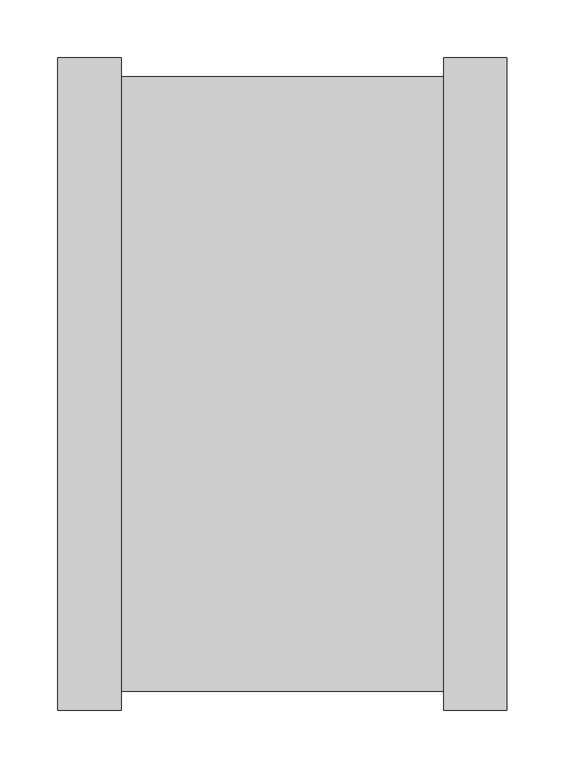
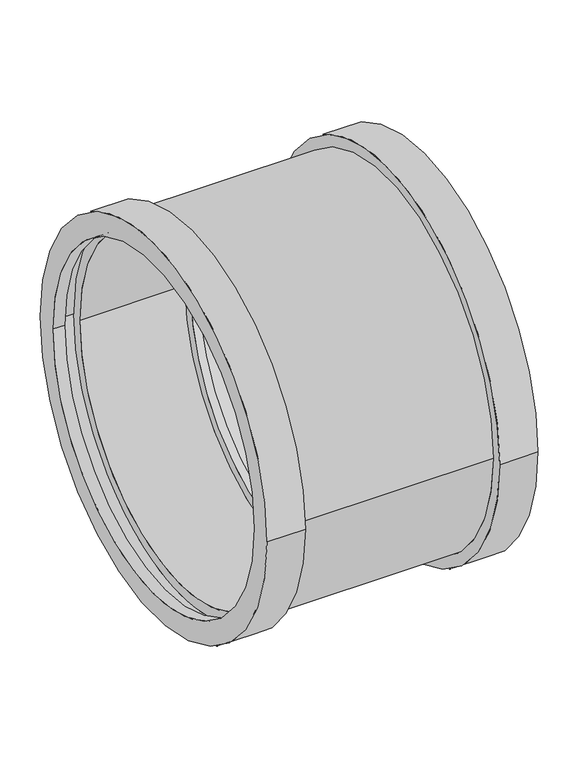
"""IFC4 building model written with IfcOpenShell, lengths in millimetres: pipe fitting geometry, AWADUKT PP Union DSM : Blue No PID."""

import ifcopenshell
import ifcopenshell.guid

model = None  # the IFC model being written
_history = None  # IfcOwnerHistory: only IFC2X3 demands one
_inside = {}  # id of a spatial element -> (the spatial element, [elements in it])
_under = {}  # id of a project, library or spatial element -> (it, [spatial elements below it])
_declared = {}  # id of a project -> (the project, [libraries it declares])
_typed = {}  # id of a type object -> (the type object, [elements of that type])
_made_of = {}  # id of a material, layer set ... -> (it, [elements and type objects made of it])


def new_model(schema):
    """Start an empty IFC model of exactly this schema.

    Asked for "IFC4X3", IfcOpenShell would pick the latest addendum, in which some entities
    have other attributes; the version numbers below select the first issue.
    IFC2X3 requires an IfcOwnerHistory on every rooted entity: one is made here for all.
    """
    global model, _history
    if schema == "IFC4X3":
        model = ifcopenshell.file(schema_version=(4, 3, 0, 0))
    else:
        model = ifcopenshell.file(schema=schema)
    _inside.clear()
    _under.clear()
    _declared.clear()
    _typed.clear()
    _made_of.clear()
    _history = None
    if model.schema == "IFC2X3":
        org = make("IfcOrganization", Name="unknown")
        user = make(
            "IfcPersonAndOrganization",
            ThePerson=make("IfcPerson", FamilyName="unknown"),
            TheOrganization=org,
        )
        app = make(
            "IfcApplication",
            ApplicationDeveloper=org,
            Version="unknown",
            ApplicationFullName="unknown",
            ApplicationIdentifier="unknown",
        )
        _history = make(
            "IfcOwnerHistory",
            OwningUser=user,
            OwningApplication=app,
            ChangeAction="ADDED",
            CreationDate=0,
        )
    return model


def make(cls, **values):
    """One entity of the class cls with the attributes given. An attribute that is None is left unset."""
    return model.create_entity(
        cls, **{name: value for name, value in values.items() if value is not None}
    )


def rooted(cls, **values):
    """An entity with a GlobalId (a new one), such as an element, a storey or a relation."""
    return make(cls, GlobalId=ifcopenshell.guid.new(), OwnerHistory=_history, **values)


def si_unit(unit_type, name, prefix=None):
    """IfcSIUnit, for example si_unit("LENGTHUNIT", "METRE", prefix="MILLI")."""
    return make("IfcSIUnit", UnitType=unit_type, Prefix=prefix, Name=name)


def assignment(units):
    """IfcUnitAssignment: the units of a project."""
    return None if units is None else make("IfcUnitAssignment", Units=units)


def point(xyz):
    """IfcCartesianPoint."""
    return None if xyz is None else make("IfcCartesianPoint", Coordinates=xyz)


def direction(xyz):
    """IfcDirection."""
    return None if xyz is None else make("IfcDirection", DirectionRatios=xyz)


def frame(location, z_axis=None, x_axis=None):
    """IfcAxis2Placement3D, a coordinate frame: its origin and axes. An axis left out is left unset."""
    return make(
        "IfcAxis2Placement3D",
        Location=point(location),
        Axis=direction(z_axis),
        RefDirection=direction(x_axis),
    )


def origin():
    """The frame at (0, 0, 0) with its axes left unset."""
    return frame((0.0, 0.0, 0.0))


def place(relative_to, where):
    """IfcLocalPlacement: puts the frame where relative to a parent placement (None: the world)."""
    return make(
        "IfcLocalPlacement", PlacementRelTo=relative_to, RelativePlacement=where
    )


def context(
    kind, dimensions, precision=None, world=None, true_north=None, identifier=None
):
    """IfcGeometricRepresentationContext, for example the 3D "Model" context."""
    return make(
        "IfcGeometricRepresentationContext",
        ContextIdentifier=identifier,
        ContextType=kind,
        CoordinateSpaceDimension=dimensions,
        Precision=precision,
        WorldCoordinateSystem=world,
        TrueNorth=true_north,
    )


def project(units=None, contexts=None):
    """IfcProject with its units and contexts."""
    return rooted(
        "IfcProject",
        Name="project",
        RepresentationContexts=contexts,
        UnitsInContext=assignment(units),
    )


def spatial(cls, under=None, at=None, **own):
    """A site, building, storey or space (cls), placed at a placement, below another one or the project."""
    s = rooted(cls, ObjectPlacement=at, **own)
    if under is not None:
        _under.setdefault(under.id(), (under, []))[1].append(s)
    return s


def polyline(points):
    """IfcPolyline through the points."""
    return make("IfcPolyline", Points=[point(p) for p in points])


def circle_curve(where, radius):
    """IfcCircle in the frame where."""
    return make("IfcCircle", Position=where, Radius=radius)


def shape(context_of_items, identifier, shape_type, items):
    """IfcShapeRepresentation: the items that make up one representation, for example the "Body"."""
    return make(
        "IfcShapeRepresentation",
        ContextOfItems=context_of_items,
        RepresentationIdentifier=identifier,
        RepresentationType=shape_type,
        Items=items,
    )


def source(mapping_origin, context_of_items, identifier, shape_type, items):
    """IfcRepresentationMap: a shape defined once, which mapped items show again and again."""
    return make(
        "IfcRepresentationMap",
        MappingOrigin=mapping_origin,
        MappedRepresentation=shape(context_of_items, identifier, shape_type, items),
    )


def transform(
    local_origin,
    x_axis=None,
    y_axis=None,
    z_axis=None,
    scale=None,
    scale2=None,
    scale3=None,
    uniform=True,
):
    """IfcCartesianTransformationOperator3D, or its non-uniform kind. x_axis, y_axis, z_axis: its Axis1, 2, 3."""
    if uniform:
        return make(
            "IfcCartesianTransformationOperator3D",
            Axis1=direction(x_axis),
            Axis2=direction(y_axis),
            LocalOrigin=point(local_origin),
            Scale=scale,
            Axis3=direction(z_axis),
        )
    return make(
        "IfcCartesianTransformationOperator3DnonUniform",
        Axis1=direction(x_axis),
        Axis2=direction(y_axis),
        LocalOrigin=point(local_origin),
        Scale=scale,
        Axis3=direction(z_axis),
        Scale2=scale2,
        Scale3=scale3,
    )


def mapped(mapping_source, mapping_target):
    """IfcMappedItem: shows the shape of a source again, moved by a transform."""
    return make(
        "IfcMappedItem", MappingSource=mapping_source, MappingTarget=mapping_target
    )


def made_of(thing, what):
    """Note that an element or type object is made of a material, layer set ...; save() writes the relation."""
    if what is not None:
        _made_of.setdefault(what.id(), (what, []))[1].append(thing)
    return thing


def element(
    cls,
    number,
    at=None,
    inside=None,
    cuts=None,
    type_object=None,
    material=None,
    context=None,
    identifier="Body",
    shape_type=None,
    held_by="IfcProductDefinitionShape",
    body=None,
    shapes=None,
    **own,
):
    """One element of the class cls, such as IfcWall. Its Tag is "e" and its number.

    at: its placement. inside: the storey or other place that contains it. cuts: it is an
    opening in that element (IfcRelVoidsElement). A single representation is given by context,
    identifier, shape_type and body (its items); several are given by shapes. held_by: the class
    of the entity that holds the representations. save() writes the other relations.
    """
    e = rooted(cls, Tag="e%d" % number, ObjectPlacement=at, **own)
    if body is not None:
        shapes = [shape(context, identifier, shape_type, body)]
    if shapes is not None:
        e.Representation = make(held_by, Representations=shapes)
    if inside is not None:
        _inside.setdefault(inside.id(), (inside, []))[1].append(e)
    if cuts is not None:
        rooted(
            "IfcRelVoidsElement", RelatingBuildingElement=cuts, RelatedOpeningElement=e
        )
    if type_object is not None:
        _typed.setdefault(type_object.id(), (type_object, []))[1].append(e)
    return made_of(e, material)


def aggregate(whole, parts):
    """IfcRelAggregates: a whole, such as a stair, and the parts it consists of."""
    return rooted("IfcRelAggregates", RelatingObject=whole, RelatedObjects=parts)


def save(model, path):
    """Write the relations noted so far, then the file.

    IfcRelAggregates (storeys below a building ...), IfcRelContainedInSpatialStructure (elements
    in a storey), IfcRelDefinesByType, IfcRelAssociatesMaterial and IfcRelDeclares: one each for
    every whole, place, type object, material and project.
    """
    for whole, parts in _under.values():
        aggregate(whole, parts)
    for where, things in _inside.values():
        rooted(
            "IfcRelContainedInSpatialStructure",
            RelatedElements=things,
            RelatingStructure=where,
        )
    for kind, things in _typed.values():
        rooted("IfcRelDefinesByType", RelatedObjects=things, RelatingType=kind)
    for what, things in _made_of.values():
        rooted("IfcRelAssociatesMaterial", RelatedObjects=things, RelatingMaterial=what)
    for by, libraries in _declared.values():
        rooted("IfcRelDeclares", RelatingContext=by, RelatedDefinitions=libraries)
    model.write(path)


def plane_surface(at):
    """IfcPlane: the flat surface through the origin of the frame at, square to its z axis."""
    return make("IfcPlane", Position=at)


def cylinder_surface(at, radius):
    """IfcCylindricalSurface: all points at the distance radius from the z axis of the frame at."""
    return make("IfcCylindricalSurface", Position=at, Radius=radius)


def revolved_surface(curve, axis_point, axis_direction):
    """IfcSurfaceOfRevolution: the curve turned about the line through axis_point along axis_direction."""
    return make(
        "IfcSurfaceOfRevolution",
        SweptCurve=make("IfcArbitraryOpenProfileDef", ProfileType="CURVE", Curve=curve),
        AxisPosition=make("IfcAxis1Placement", Location=point(axis_point), Axis=direction(axis_direction)),
    )


def advanced_brep(points, edges, surfaces, faces):
    """IfcAdvancedBrep: a solid bounded by faces that lie on surfaces and meet in shared edges.

    An edge is (start, end): straight between two places in points (the first is 0);
    or (start, end, curve); or (start, end, curve, False) where it runs against its curve.
    A face is (place in surfaces, loops), or (place, loops, False) where it looks against
    its surface's normal. A loop lists edges by number (the first is 1), with a minus sign
    where the edge is run from its end to its start. The first loop is the outer one.
    """
    corners = [point(p) for p in points]
    vertices = [make("IfcVertexPoint", VertexGeometry=c) for c in corners]
    made = []
    for start, end, *more in edges:
        made.append(
            make(
                "IfcEdgeCurve",
                EdgeStart=vertices[start],
                EdgeEnd=vertices[end],
                EdgeGeometry=more[0] if more else make("IfcPolyline", Points=[corners[start], corners[end]]),
                SameSense=more[1] if len(more) > 1 else True,
            )
        )
    hull = []
    for where, loops, *sense in faces:
        bounds = []
        for j, loop in enumerate(loops):
            ring = [make("IfcOrientedEdge", EdgeElement=made[abs(k) - 1], Orientation=k > 0) for k in loop]
            bounds.append(
                make(
                    "IfcFaceOuterBound" if j == 0 else "IfcFaceBound",
                    Bound=make("IfcEdgeLoop", EdgeList=ring),
                    Orientation=True,
                )
            )
        hull.append(make("IfcAdvancedFace", Bounds=bounds, FaceSurface=surfaces[where], SameSense=sense[0] if sense else True))
    return make("IfcAdvancedBrep", Outer=make("IfcClosedShell", CfsFaces=hull))


def pipe_fitting_2c23b5e5(model_context):
    return source(origin(), model_context, "Body", "AdvancedBrep", [
        advanced_brep(
        [(-150.35, -250.0, 0.0), (-150.35, 250.0, 0.0), (0.0, 250.0, 0.0), (0.0, -250.0, 0.0), (-172.75, -266.25, 0.0), (-172.75, 266.25, 0.0), (-150.35, 266.25, 0.0), (-150.35, -266.25, 0.0), (-189.0, -250.0, 0.0), (-189.0, 250.0, 0.0), (-172.75, 250.0, 0.0), (-172.75, -250.0, 0.0), (-134.1, -282.5, 0.0), (-134.1, 282.5, 0.0), (-189.0, 282.5, 0.0), (-189.0, -282.5, 0.0), (145.1, -266.25, 0.0), (145.1, 266.25, 0.0), (-134.1, 266.25, 0.0), (-134.1, -266.25, 0.0), (200.0, -282.5, 0.0), (200.0, 282.5, 0.0), (145.1, 282.5, 0.0), (145.1, -282.5, 0.0), (183.75, -250.0, 0.0), (183.75, 250.0, 0.0), (200.0, 250.0, 0.0), (200.0, -250.0, 0.0), (161.35, -266.25, 0.0), (161.35, 266.25, 0.0), (183.75, 266.25, 0.0), (183.75, -266.25, 0.0), (11.0, -250.0, 0.0), (11.0, 250.0, 0.0), (161.35, 250.0, 0.0), (161.35, -250.0, 0.0), (0.0, -233.75, 0.0), (0.0, 233.75, 0.0), (11.0, 233.75, 0.0), (11.0, -233.75, 0.0)],
        [
            (0, 1, circle_curve(frame((-150.35, 0.0, 0.0), z_axis=(-1.0, 0.0, 0.0), x_axis=(0.0, 1.0, 0.0)), 250.0)),
            (1, 2),
            (2, 3, circle_curve(frame((0.0, 0.0, 0.0), z_axis=(1.0, 0.0, 0.0), x_axis=(0.0, 1.0, 0.0)), 250.0)),
            (3, 0),
            (4, 5, circle_curve(frame((-172.75, 0.0, 0.0), z_axis=(-1.0, 0.0, 0.0), x_axis=(0.0, 1.0, 0.0)), 266.25)),
            (5, 6),
            (6, 7, circle_curve(frame((-150.35, 0.0, 0.0), z_axis=(1.0, 0.0, 0.0), x_axis=(0.0, 1.0, 0.0)), 266.25)),
            (7, 4),
            (8, 9, circle_curve(frame((-189.0, 0.0, 0.0), z_axis=(-1.0, 0.0, 0.0), x_axis=(0.0, 1.0, 0.0)), 250.0)),
            (9, 10),
            (10, 11, circle_curve(frame((-172.75, 0.0, 0.0), z_axis=(1.0, 0.0, 0.0), x_axis=(0.0, 1.0, 0.0)), 250.0)),
            (11, 8),
            (12, 13, circle_curve(frame((-134.1, 0.0, 0.0), z_axis=(-1.0, 0.0, 0.0), x_axis=(0.0, 1.0, 0.0)), 282.5)),
            (13, 14),
            (14, 15, circle_curve(frame((-189.0, 0.0, 0.0), z_axis=(1.0, 0.0, 0.0), x_axis=(0.0, 1.0, 0.0)), 282.5)),
            (15, 12),
            (16, 17, circle_curve(frame((145.1, 0.0, 0.0), z_axis=(-1.0, 0.0, 0.0), x_axis=(0.0, 1.0, 0.0)), 266.25)),
            (17, 18),
            (18, 19, circle_curve(frame((-134.1, 0.0, 0.0), z_axis=(1.0, 0.0, 0.0), x_axis=(0.0, 1.0, 0.0)), 266.25)),
            (19, 16),
            (20, 21, circle_curve(frame((200.0, 0.0, 0.0), z_axis=(-1.0, 0.0, 0.0), x_axis=(0.0, 1.0, 0.0)), 282.5)),
            (21, 22),
            (22, 23, circle_curve(frame((145.1, 0.0, 0.0), z_axis=(1.0, 0.0, 0.0), x_axis=(0.0, 1.0, 0.0)), 282.5)),
            (23, 20),
            (24, 25, circle_curve(frame((183.75, 0.0, 0.0), z_axis=(-1.0, 0.0, 0.0), x_axis=(0.0, 1.0, 0.0)), 250.0)),
            (25, 26),
            (26, 27, circle_curve(frame((200.0, 0.0, 0.0), z_axis=(1.0, 0.0, 0.0), x_axis=(0.0, 1.0, 0.0)), 250.0)),
            (27, 24),
            (28, 29, circle_curve(frame((161.35, 0.0, 0.0), z_axis=(-1.0, 0.0, 0.0), x_axis=(0.0, 1.0, 0.0)), 266.25)),
            (29, 30),
            (30, 31, circle_curve(frame((183.75, 0.0, 0.0), z_axis=(1.0, 0.0, 0.0), x_axis=(0.0, 1.0, 0.0)), 266.25)),
            (31, 28),
            (32, 33, circle_curve(frame((11.0, 0.0, 0.0), z_axis=(-1.0, 0.0, 0.0), x_axis=(0.0, 1.0, 0.0)), 250.0)),
            (33, 34),
            (34, 35, circle_curve(frame((161.35, 0.0, 0.0), z_axis=(1.0, 0.0, 0.0), x_axis=(0.0, 1.0, 0.0)), 250.0)),
            (35, 32),
            (36, 37, circle_curve(frame((0.0, 0.0, 0.0), z_axis=(-1.0, 0.0, 0.0), x_axis=(0.0, 1.0, 0.0)), 233.75)),
            (37, 38),
            (38, 39, circle_curve(frame((11.0, 0.0, 0.0), z_axis=(1.0, 0.0, 0.0), x_axis=(0.0, 1.0, 0.0)), 233.75)),
            (39, 36),
            (1, 0, circle_curve(frame((-150.35, 0.0, 0.0), z_axis=(-1.0, 0.0, 0.0), x_axis=(0.0, -1.0, 0.0)), 250.0)),
            (3, 2, circle_curve(frame((0.0, 0.0, 0.0), z_axis=(1.0, 0.0, 0.0), x_axis=(0.0, -1.0, 0.0)), 250.0)),
            (6, 7, circle_curve(frame((-150.35, 0.0, 0.0), z_axis=(-1.0, 0.0, 0.0), x_axis=(0.0, -1.0, 0.0)), 266.25)),
            (5, 4, circle_curve(frame((-172.75, 0.0, 0.0), z_axis=(-1.0, 0.0, 0.0), x_axis=(0.0, -1.0, 0.0)), 266.25)),
            (10, 11, circle_curve(frame((-172.75, 0.0, 0.0), z_axis=(-1.0, 0.0, 0.0), x_axis=(0.0, -1.0, 0.0)), 250.0)),
            (9, 8, circle_curve(frame((-189.0, 0.0, 0.0), z_axis=(-1.0, 0.0, 0.0), x_axis=(0.0, -1.0, 0.0)), 250.0)),
            (14, 15, circle_curve(frame((-189.0, 0.0, 0.0), z_axis=(-1.0, 0.0, 0.0), x_axis=(0.0, -1.0, 0.0)), 282.5)),
            (13, 12, circle_curve(frame((-134.1, 0.0, 0.0), z_axis=(-1.0, 0.0, 0.0), x_axis=(0.0, -1.0, 0.0)), 282.5)),
            (18, 19, circle_curve(frame((-134.1, 0.0, 0.0), z_axis=(-1.0, 0.0, 0.0), x_axis=(0.0, -1.0, 0.0)), 266.25)),
            (17, 16, circle_curve(frame((145.1, 0.0, 0.0), z_axis=(-1.0, 0.0, 0.0), x_axis=(0.0, -1.0, 0.0)), 266.25)),
            (22, 23, circle_curve(frame((145.1, 0.0, 0.0), z_axis=(-1.0, 0.0, 0.0), x_axis=(0.0, -1.0, 0.0)), 282.5)),
            (21, 20, circle_curve(frame((200.0, 0.0, 0.0), z_axis=(-1.0, 0.0, 0.0), x_axis=(0.0, -1.0, 0.0)), 282.5)),
            (26, 27, circle_curve(frame((200.0, 0.0, 0.0), z_axis=(-1.0, 0.0, 0.0), x_axis=(0.0, -1.0, 0.0)), 250.0)),
            (25, 24, circle_curve(frame((183.75, 0.0, 0.0), z_axis=(-1.0, 0.0, 0.0), x_axis=(0.0, -1.0, 0.0)), 250.0)),
            (30, 31, circle_curve(frame((183.75, 0.0, 0.0), z_axis=(-1.0, 0.0, 0.0), x_axis=(0.0, -1.0, 0.0)), 266.25)),
            (29, 28, circle_curve(frame((161.35, 0.0, 0.0), z_axis=(-1.0, 0.0, 0.0), x_axis=(0.0, -1.0, 0.0)), 266.25)),
            (34, 35, circle_curve(frame((161.35, 0.0, 0.0), z_axis=(-1.0, 0.0, 0.0), x_axis=(0.0, -1.0, 0.0)), 250.0)),
            (33, 32, circle_curve(frame((11.0, 0.0, 0.0), z_axis=(-1.0, 0.0, 0.0), x_axis=(0.0, -1.0, 0.0)), 250.0)),
            (38, 39, circle_curve(frame((11.0, 0.0, 0.0), z_axis=(-1.0, 0.0, 0.0), x_axis=(0.0, -1.0, 0.0)), 233.75)),
            (37, 36, circle_curve(frame((0.0, 0.0, 0.0), z_axis=(-1.0, 0.0, 0.0), x_axis=(0.0, -1.0, 0.0)), 233.75)),
        ],
        [
            revolved_surface(polyline([(0.0, 250.0, 0.0), (-150.35, 250.0, 0.0)]), (5.5, 0.0, 0.0), (1.0, 0.0, 0.0)),
            revolved_surface(polyline([(-150.35, 266.25, 0.0), (-172.75, 266.25, 0.0)]), (5.5, 0.0, 0.0), (1.0, 0.0, 0.0)),
            revolved_surface(polyline([(-172.75, 250.0, 0.0), (-189.0, 250.0, 0.0)]), (5.5, 0.0, 0.0), (1.0, 0.0, 0.0)),
            cylinder_surface(frame((5.5, 0.0, 0.0), z_axis=(1.0, 0.0, 0.0), x_axis=(0.0, 1.0, 0.0)), 282.5),
            cylinder_surface(frame((5.5, 0.0, 0.0), z_axis=(1.0, 0.0, 0.0), x_axis=(0.0, 1.0, 0.0)), 266.25),
            revolved_surface(polyline([(200.0, 250.0, 0.0), (183.75, 250.0, 0.0)]), (5.5, 0.0, 0.0), (1.0, 0.0, 0.0)),
            revolved_surface(polyline([(183.75, 266.25, 0.0), (161.35, 266.25, 0.0)]), (5.5, 0.0, 0.0), (1.0, 0.0, 0.0)),
            revolved_surface(polyline([(161.35, 250.0, 0.0), (11.0, 250.0, 0.0)]), (5.5, 0.0, 0.0), (1.0, 0.0, 0.0)),
            revolved_surface(polyline([(11.0, 233.75, 0.0), (0.0, 233.75, 0.0)]), (5.5, 0.0, 0.0), (1.0, 0.0, 0.0)),
            revolved_surface(polyline([(0.0, -250.0, 0.0), (-150.35, -250.0, 0.0)]), (5.5, 0.0, 0.0), (1.0, 0.0, 0.0)),
            plane_surface(frame((-150.35, 0.0, 0.0), z_axis=(-1.0, 0.0, 0.0), x_axis=(0.0, -1.0, 0.0))),
            revolved_surface(polyline([(-150.35, -266.25, 0.0), (-172.75, -266.25, 0.0)]), (5.5, 0.0, 0.0), (1.0, 0.0, 0.0)),
            plane_surface(frame((-172.75, 0.0, 0.0), z_axis=(1.0, 0.0, 0.0), x_axis=(0.0, -1.0, 0.0))),
            revolved_surface(polyline([(-172.75, -250.0, 0.0), (-189.0, -250.0, 0.0)]), (5.5, 0.0, 0.0), (1.0, 0.0, 0.0)),
            plane_surface(frame((-189.0, 0.0, 0.0), z_axis=(-1.0, 0.0, 0.0), x_axis=(0.0, -1.0, 0.0))),
            cylinder_surface(frame((5.5, 0.0, 0.0), z_axis=(1.0, 0.0, 0.0), x_axis=(0.0, -1.0, 0.0)), 282.5),
            plane_surface(frame((-134.1, 0.0, 0.0), z_axis=(1.0, 0.0, 0.0), x_axis=(0.0, -1.0, 0.0))),
            cylinder_surface(frame((5.5, 0.0, 0.0), z_axis=(1.0, 0.0, 0.0), x_axis=(0.0, -1.0, 0.0)), 266.25),
            plane_surface(frame((145.1, 0.0, 0.0), z_axis=(-1.0, 0.0, 0.0), x_axis=(0.0, -1.0, 0.0))),
            plane_surface(frame((200.0, 0.0, 0.0), z_axis=(1.0, 0.0, 0.0), x_axis=(0.0, -1.0, 0.0))),
            revolved_surface(polyline([(200.0, -250.0, 0.0), (183.75, -250.0, 0.0)]), (5.5, 0.0, 0.0), (1.0, 0.0, 0.0)),
            plane_surface(frame((183.75, 0.0, 0.0), z_axis=(-1.0, 0.0, 0.0), x_axis=(0.0, -1.0, 0.0))),
            revolved_surface(polyline([(183.75, -266.25, 0.0), (161.35, -266.25, 0.0)]), (5.5, 0.0, 0.0), (1.0, 0.0, 0.0)),
            plane_surface(frame((161.35, 0.0, 0.0), z_axis=(1.0, 0.0, 0.0), x_axis=(0.0, -1.0, 0.0))),
            revolved_surface(polyline([(161.35, -250.0, 0.0), (11.0, -250.0, 0.0)]), (5.5, 0.0, 0.0), (1.0, 0.0, 0.0)),
            plane_surface(frame((11.0, 0.0, 0.0), z_axis=(1.0, 0.0, 0.0), x_axis=(0.0, -1.0, 0.0))),
            revolved_surface(polyline([(11.0, -233.75, 0.0), (0.0, -233.75, 0.0)]), (5.5, 0.0, 0.0), (1.0, 0.0, 0.0)),
            plane_surface(frame((0.0, 0.0, 0.0), z_axis=(-1.0, 0.0, 0.0), x_axis=(0.0, -1.0, 0.0))),
        ],
        [
            (0, [[1, 2, 3, 4]]),
            (1, [[5, 6, 7, 8]]),
            (2, [[9, 10, 11, 12]]),
            (3, [[13, 14, 15, 16]]),
            (4, [[17, 18, 19, 20]]),
            (3, [[21, 22, 23, 24]]),
            (5, [[25, 26, 27, 28]]),
            (6, [[29, 30, 31, 32]]),
            (7, [[33, 34, 35, 36]]),
            (8, [[37, 38, 39, 40]]),
            (9, [[41, -4, 42, -2]]),
            (10, [[43, -7], [-41, -1]]),
            (11, [[44, -8, -43, -6]]),
            (12, [[-44, -5], [45, -11]]),
            (13, [[46, -12, -45, -10]]),
            (14, [[47, -15], [-46, -9]]),
            (15, [[48, -16, -47, -14]]),
            (16, [[-48, -13], [49, -19]]),
            (17, [[50, -20, -49, -18]]),
            (18, [[51, -23], [-50, -17]]),
            (15, [[52, -24, -51, -22]]),
            (19, [[-52, -21], [53, -27]]),
            (20, [[54, -28, -53, -26]]),
            (21, [[55, -31], [-54, -25]]),
            (22, [[56, -32, -55, -30]]),
            (23, [[-56, -29], [57, -35]]),
            (24, [[58, -36, -57, -34]]),
            (25, [[-58, -33], [59, -39]]),
            (26, [[60, -40, -59, -38]]),
            (27, [[-42, -3], [-60, -37]]),
        ],
    ),
    ])


if __name__ == "__main__":
    model = new_model("IFC4")
    model_context = context("Model", 3, world=origin())
    ifc_project = project(units=[si_unit("LENGTHUNIT", "METRE", prefix="MILLI")], contexts=[model_context])
    site = spatial("IfcSite", under=ifc_project)
    building = spatial("IfcBuilding", under=site)
    placement = place(None, origin())
    pipe_fitting_shape = pipe_fitting_2c23b5e5(model_context)
    element("IfcPipeFitting", 1, ObjectType="AWADUKT PP Union DSM : Blue No PID", at=placement, inside=building, context=model_context, shape_type="MappedRepresentation", body=[
        mapped(pipe_fitting_shape, transform((0.0, 0.0, 0.0), x_axis=(1.0, 0.0, 0.0), y_axis=(0.0, 1.0, 0.0), z_axis=(0.0, 0.0, 1.0))),
    ])
    save(model, "model.ifc")
